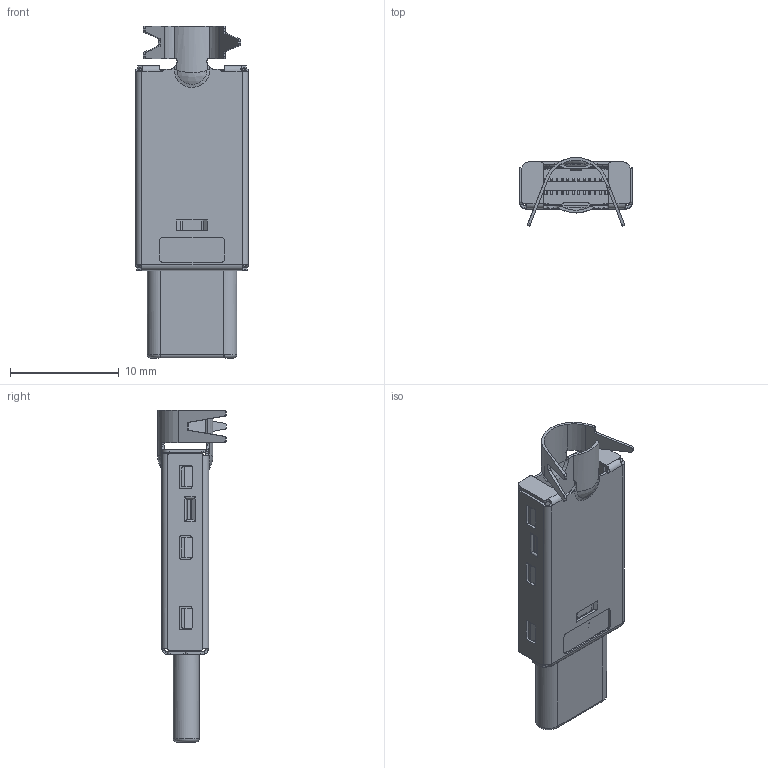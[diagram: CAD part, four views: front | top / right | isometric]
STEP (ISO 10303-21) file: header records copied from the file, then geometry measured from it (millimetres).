
FILE_DESCRIPTION (( 'STEP AP214' ), '1' );
FILE_NAME ('9805-S1&S2煦极宒鎮諳沺.STEP', '2025-01-18T06:59:59', ( '' ), ( '' ), 'SwSTEP 2.0', 'SolidWorks 2023', '' );
FILE_SCHEMA (( 'AUTOMOTIVE_DESIGN' ));
Products named in the file (1): 9805-S1&S2分体式马口铁
Bounding box: 10.35 x 6.34 x 30.55 mm (x, y, z)
Surface area: 2690.4 mm2 (no closed solid volume)
Topology: 0 solids, 13 shells, 3289 faces, 9650 edges, 6248 vertices
Faces by surface type: plane 2154, cylinder 932, bspline 147, cone 30, torus 26
Entity records: 115772 total; most frequent: CARTESIAN_POINT 28920, ORIENTED_EDGE 19270, DIRECTION 16799, EDGE_CURVE 9649, LINE 6927, VECTOR 6927, VERTEX_POINT 6248, AXIS2_PLACEMENT_3D 4936
